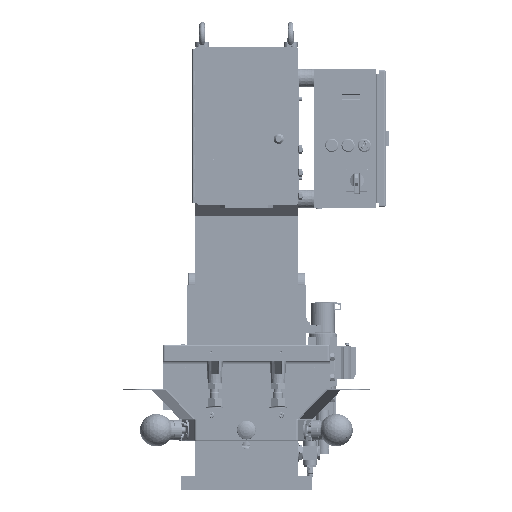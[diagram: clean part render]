
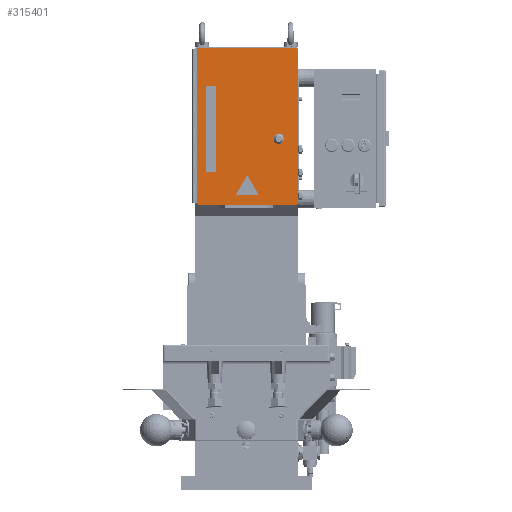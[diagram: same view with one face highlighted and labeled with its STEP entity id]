
A CAD part, front view. The second image highlights one B-rep face of the part: STEP entity #315401.
In plain terms, the highlighted planar face has unit normal (0, -1, 0).
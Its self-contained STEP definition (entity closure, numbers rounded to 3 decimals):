
#16153=LINE('',#418230,#44346);
#16156=LINE('',#418235,#44349);
#17134=LINE('',#423377,#45327);
#17135=LINE('',#423379,#45328);
#17138=LINE('',#423392,#45331);
#17142=LINE('',#423404,#45335);
#17147=LINE('',#423416,#45340);
#25227=LINE('',#477877,#53420);
#25229=LINE('',#477883,#53422);
#25230=LINE('',#477887,#53423);
#25231=LINE('',#477891,#53424);
#44346=VECTOR('',#348452,10.);
#44349=VECTOR('',#348457,10.);
#45327=VECTOR('',#350057,10.);
#45328=VECTOR('',#350060,10.);
#45331=VECTOR('',#350073,10.);
#45335=VECTOR('',#350085,10.);
#45340=VECTOR('',#350098,10.);
#53420=VECTOR('',#363866,10.);
#53422=VECTOR('',#363872,10.);
#53423=VECTOR('',#363875,10.);
#53424=VECTOR('',#363878,10.);
#74523=FACE_BOUND('',#98917,.T.);
#74524=FACE_BOUND('',#98918,.T.);
#74525=FACE_BOUND('',#98919,.T.);
#81656=FACE_OUTER_BOUND('',#98916,.T.);
#98916=EDGE_LOOP('',(#223840,#223841,#223842,#223843,#223844,#223845,#223846,
#223847));
#98917=EDGE_LOOP('',(#223848,#223849,#223850,#223851));
#98918=EDGE_LOOP('',(#223852,#223853,#223854,#223855,#223856,#223857));
#98919=EDGE_LOOP('',(#223858));
#111700=CIRCLE('',#328042,1.);
#111702=CIRCLE('',#328046,1.);
#111704=CIRCLE('',#328050,1.);
#112031=CIRCLE('',#330897,3.);
#112032=CIRCLE('',#330898,3.);
#112033=CIRCLE('',#330899,3.);
#112034=CIRCLE('',#330900,3.);
#112035=CIRCLE('',#330901,11.);
#118990=VERTEX_POINT('',#418227);
#118991=VERTEX_POINT('',#418229);
#118992=VERTEX_POINT('',#418233);
#119895=VERTEX_POINT('',#423375);
#119898=VERTEX_POINT('',#423385);
#119899=VERTEX_POINT('',#423387);
#119900=VERTEX_POINT('',#423391);
#119903=VERTEX_POINT('',#423399);
#119904=VERTEX_POINT('',#423403);
#119907=VERTEX_POINT('',#423411);
#128516=VERTEX_POINT('',#477874);
#128517=VERTEX_POINT('',#477876);
#128518=VERTEX_POINT('',#477880);
#128519=VERTEX_POINT('',#477882);
#128520=VERTEX_POINT('',#477884);
#128521=VERTEX_POINT('',#477886);
#128522=VERTEX_POINT('',#477888);
#128523=VERTEX_POINT('',#477890);
#128524=VERTEX_POINT('',#477893);
#149376=EDGE_CURVE('',#118991,#118990,#16153,.T.);
#149379=EDGE_CURVE('',#118990,#118992,#16156,.T.);
#150736=EDGE_CURVE('',#118992,#119895,#17134,.T.);
#150737=EDGE_CURVE('',#119895,#118991,#17135,.T.);
#150740=EDGE_CURVE('',#119899,#119898,#111700,.T.);
#150742=EDGE_CURVE('',#119900,#119899,#17138,.T.);
#150746=EDGE_CURVE('',#119903,#119900,#111702,.T.);
#150748=EDGE_CURVE('',#119904,#119903,#17142,.T.);
#150752=EDGE_CURVE('',#119907,#119904,#111704,.T.);
#150755=EDGE_CURVE('',#119898,#119907,#17147,.T.);
#163675=EDGE_CURVE('',#128516,#128517,#25227,.T.);
#163677=EDGE_CURVE('',#128518,#128516,#112031,.T.);
#163678=EDGE_CURVE('',#128519,#128518,#25229,.T.);
#163679=EDGE_CURVE('',#128520,#128519,#112032,.T.);
#163680=EDGE_CURVE('',#128521,#128520,#25230,.T.);
#163681=EDGE_CURVE('',#128522,#128521,#112033,.T.);
#163682=EDGE_CURVE('',#128523,#128522,#25231,.T.);
#163683=EDGE_CURVE('',#128517,#128523,#112034,.T.);
#163684=EDGE_CURVE('',#128524,#128524,#112035,.T.);
#223840=ORIENTED_EDGE('',*,*,#163677,.F.);
#223841=ORIENTED_EDGE('',*,*,#163678,.F.);
#223842=ORIENTED_EDGE('',*,*,#163679,.F.);
#223843=ORIENTED_EDGE('',*,*,#163680,.F.);
#223844=ORIENTED_EDGE('',*,*,#163681,.F.);
#223845=ORIENTED_EDGE('',*,*,#163682,.F.);
#223846=ORIENTED_EDGE('',*,*,#163683,.F.);
#223847=ORIENTED_EDGE('',*,*,#163675,.F.);
#223848=ORIENTED_EDGE('',*,*,#149376,.T.);
#223849=ORIENTED_EDGE('',*,*,#149379,.T.);
#223850=ORIENTED_EDGE('',*,*,#150736,.T.);
#223851=ORIENTED_EDGE('',*,*,#150737,.T.);
#223852=ORIENTED_EDGE('',*,*,#150740,.T.);
#223853=ORIENTED_EDGE('',*,*,#150755,.T.);
#223854=ORIENTED_EDGE('',*,*,#150752,.T.);
#223855=ORIENTED_EDGE('',*,*,#150748,.T.);
#223856=ORIENTED_EDGE('',*,*,#150746,.T.);
#223857=ORIENTED_EDGE('',*,*,#150742,.T.);
#223858=ORIENTED_EDGE('',*,*,#163684,.T.);
#286638=PLANE('',#330896);
#315401=ADVANCED_FACE('',(#81656,#74523,#74524,#74525),#286638,.T.);
#328042=AXIS2_PLACEMENT_3D('',#423388,#350068,#350069);
#328046=AXIS2_PLACEMENT_3D('',#423400,#350080,#350081);
#328050=AXIS2_PLACEMENT_3D('',#423412,#350092,#350093);
#330896=AXIS2_PLACEMENT_3D('',#477879,#363868,#363869);
#330897=AXIS2_PLACEMENT_3D('',#477881,#363870,#363871);
#330898=AXIS2_PLACEMENT_3D('',#477885,#363873,#363874);
#330899=AXIS2_PLACEMENT_3D('',#477889,#363876,#363877);
#330900=AXIS2_PLACEMENT_3D('',#477892,#363879,#363880);
#330901=AXIS2_PLACEMENT_3D('',#477894,#363881,#363882);
#348452=DIRECTION('',(0.,0.,1.));
#348457=DIRECTION('',(1.,0.,0.));
#350057=DIRECTION('',(0.,0.,-1.));
#350060=DIRECTION('',(-1.,0.,0.));
#350068=DIRECTION('center_axis',(0.,1.,0.));
#350069=DIRECTION('ref_axis',(-0.866,0.,
-0.5));
#350073=DIRECTION('',(-1.,0.,0.));
#350080=DIRECTION('center_axis',(0.,1.,0.));
#350081=DIRECTION('ref_axis',(0.866,0.,-0.5));
#350085=DIRECTION('',(0.5,0.,-0.866));
#350092=DIRECTION('center_axis',(0.,1.,0.));
#350093=DIRECTION('ref_axis',(0.,0.,
1.));
#350098=DIRECTION('',(0.5,0.,0.866));
#363866=DIRECTION('',(1.,0.,0.));
#363868=DIRECTION('center_axis',(0.,-1.,0.));
#363869=DIRECTION('ref_axis',(1.,0.,0.));
#363870=DIRECTION('center_axis',(0.,1.,0.));
#363871=DIRECTION('ref_axis',(-0.707,0.,0.707));
#363872=DIRECTION('',(0.,0.,1.));
#363873=DIRECTION('center_axis',(0.,1.,0.));
#363874=DIRECTION('ref_axis',(-0.707,0.,
-0.707));
#363875=DIRECTION('',(-1.,0.,0.));
#363876=DIRECTION('center_axis',(0.,1.,0.));
#363877=DIRECTION('ref_axis',(0.707,0.,-0.707));
#363878=DIRECTION('',(0.,0.,-1.));
#363879=DIRECTION('center_axis',(0.,1.,0.));
#363880=DIRECTION('ref_axis',(0.707,0.,0.707));
#363881=DIRECTION('center_axis',(0.,1.,0.));
#363882=DIRECTION('ref_axis',(-1.,0.,0.));
#418227=CARTESIAN_POINT('',(-86.5,-549.5,868.));
#418229=CARTESIAN_POINT('',(-86.5,-549.5,683.));
#418230=CARTESIAN_POINT('',(-86.5,-549.5,732.));
#418233=CARTESIAN_POINT('',(-65.5,-549.5,868.));
#418235=CARTESIAN_POINT('',(-42.25,-549.5,868.));
#423375=CARTESIAN_POINT('',(-65.5,-549.5,683.));
#423377=CARTESIAN_POINT('',(-65.5,-549.5,824.5));
#423379=CARTESIAN_POINT('',(-31.75,-549.5,683.));
#423385=CARTESIAN_POINT('',(-22.134,-549.5,634.5));
#423387=CARTESIAN_POINT('',(-21.268,-549.5,633.));
#423388=CARTESIAN_POINT('Origin',(-21.268,-549.5,634.));
#423391=CARTESIAN_POINT('',(25.268,-549.5,633.));
#423392=CARTESIAN_POINT('',(-10.5,-549.5,633.));
#423399=CARTESIAN_POINT('',(26.134,-549.5,634.5));
#423400=CARTESIAN_POINT('Origin',(25.268,-549.5,634.));
#423403=CARTESIAN_POINT('',(2.866,-549.5,674.801));
#423404=CARTESIAN_POINT('',(-8.168,-549.5,693.913));
#423411=CARTESIAN_POINT('',(1.134,-549.5,674.801));
#423412=CARTESIAN_POINT('Origin',(2.,-549.5,674.301));
#423416=CARTESIAN_POINT('',(24.668,-549.5,715.563));
#477874=CARTESIAN_POINT('',(-103.5,-549.5,949.));
#477876=CARTESIAN_POINT('',(107.5,-549.5,949.));
#477877=CARTESIAN_POINT('',(110.5,-549.5,949.));
#477879=CARTESIAN_POINT('Origin',(2.,-549.5,781.));
#477880=CARTESIAN_POINT('',(-106.5,-549.5,946.));
#477881=CARTESIAN_POINT('Origin',(-103.5,-549.5,946.));
#477882=CARTESIAN_POINT('',(-106.5,-549.5,616.));
#477883=CARTESIAN_POINT('',(-106.5,-549.5,949.));
#477884=CARTESIAN_POINT('',(-103.5,-549.5,613.));
#477885=CARTESIAN_POINT('Origin',(-103.5,-549.5,616.));
#477886=CARTESIAN_POINT('',(107.5,-549.5,613.));
#477887=CARTESIAN_POINT('',(-106.5,-549.5,613.));
#477888=CARTESIAN_POINT('',(110.5,-549.5,616.));
#477889=CARTESIAN_POINT('Origin',(107.5,-549.5,616.));
#477890=CARTESIAN_POINT('',(110.5,-549.5,946.));
#477891=CARTESIAN_POINT('',(110.5,-549.5,613.));
#477892=CARTESIAN_POINT('Origin',(107.5,-549.5,946.));
#477893=CARTESIAN_POINT('',(80.5,-549.5,754.));
#477894=CARTESIAN_POINT('Origin',(69.5,-549.5,754.));
